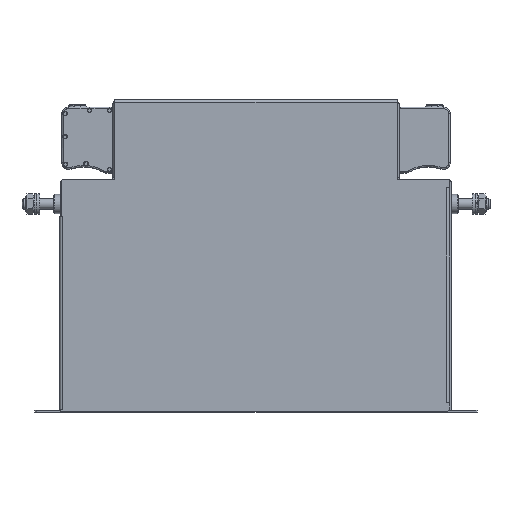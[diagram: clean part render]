
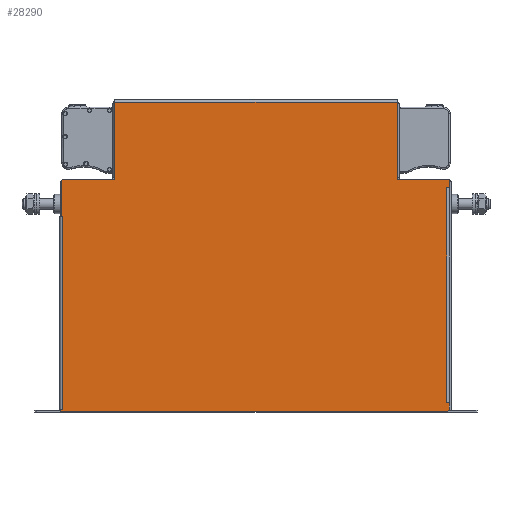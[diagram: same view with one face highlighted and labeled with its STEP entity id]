
A CAD part, top view. The second image highlights one B-rep face of the part: STEP entity #28290.
In plain terms, the highlighted planar face has unit normal (0, 0, 1).
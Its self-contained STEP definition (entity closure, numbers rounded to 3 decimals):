
#1690=LINE('',#41892,#3632);
#1920=LINE('',#42469,#3862);
#2256=LINE('',#43980,#4198);
#2260=LINE('',#43987,#4202);
#2262=LINE('',#43992,#4204);
#2273=LINE('',#44018,#4215);
#2275=LINE('',#44023,#4217);
#2277=LINE('',#44028,#4219);
#2283=LINE('',#44039,#4225);
#2284=LINE('',#44041,#4226);
#2286=LINE('',#44046,#4228);
#2290=LINE('',#44053,#4232);
#2293=LINE('',#44059,#4235);
#2304=LINE('',#44090,#4246);
#2308=LINE('',#44100,#4250);
#2309=LINE('',#44104,#4251);
#2315=LINE('',#44115,#4257);
#2316=LINE('',#44117,#4258);
#2318=LINE('',#44122,#4260);
#2323=LINE('',#44132,#4265);
#2334=LINE('',#44156,#4276);
#2337=LINE('',#44162,#4279);
#2340=LINE('',#44167,#4282);
#2341=LINE('',#44169,#4283);
#2354=LINE('',#44191,#4296);
#2361=LINE('',#44204,#4303);
#2363=LINE('',#44207,#4305);
#3632=VECTOR('',#33538,10.);
#3862=VECTOR('',#33992,10.);
#4198=VECTOR('',#34806,10.);
#4202=VECTOR('',#34812,10.);
#4204=VECTOR('',#34816,10.);
#4215=VECTOR('',#34845,10.);
#4217=VECTOR('',#34849,10.);
#4219=VECTOR('',#34853,10.);
#4225=VECTOR('',#34861,10.);
#4226=VECTOR('',#34864,10.);
#4228=VECTOR('',#34868,10.);
#4232=VECTOR('',#34874,10.);
#4235=VECTOR('',#34879,10.);
#4246=VECTOR('',#34918,10.);
#4250=VECTOR('',#34928,10.);
#4251=VECTOR('',#34931,10.);
#4257=VECTOR('',#34939,10.);
#4258=VECTOR('',#34942,10.);
#4260=VECTOR('',#34946,10.);
#4265=VECTOR('',#34953,10.);
#4276=VECTOR('',#34982,10.);
#4279=VECTOR('',#34987,10.);
#4282=VECTOR('',#34992,10.);
#4283=VECTOR('',#34995,10.);
#4296=VECTOR('',#35018,10.);
#4303=VECTOR('',#35033,10.);
#4305=VECTOR('',#35037,10.);
#5683=PLANE('',#30230);
#6823=FACE_OUTER_BOUND('',#8671,.T.);
#8671=EDGE_LOOP('',(#19914,#19915,#19916,#19917,#19918,#19919,#19920,#19921,
#19922,#19923,#19924,#19925,#19926,#19927,#19928,#19929,#19930,#19931,#19932,
#19933,#19934,#19935,#19936,#19937,#19938,#19939,#19940));
#11366=VERTEX_POINT('',#41889);
#11367=VERTEX_POINT('',#41891);
#11558=VERTEX_POINT('',#42466);
#11559=VERTEX_POINT('',#42468);
#11777=VERTEX_POINT('',#43976);
#11778=VERTEX_POINT('',#43978);
#11779=VERTEX_POINT('',#43982);
#11782=VERTEX_POINT('',#43990);
#11789=VERTEX_POINT('',#44020);
#11790=VERTEX_POINT('',#44022);
#11791=VERTEX_POINT('',#44026);
#11792=VERTEX_POINT('',#44027);
#11796=VERTEX_POINT('',#44036);
#11797=VERTEX_POINT('',#44044);
#11798=VERTEX_POINT('',#44045);
#11802=VERTEX_POINT('',#44057);
#11809=VERTEX_POINT('',#44094);
#11811=VERTEX_POINT('',#44098);
#11812=VERTEX_POINT('',#44102);
#11813=VERTEX_POINT('',#44103);
#11817=VERTEX_POINT('',#44112);
#11818=VERTEX_POINT('',#44120);
#11819=VERTEX_POINT('',#44121);
#11823=VERTEX_POINT('',#44130);
#11828=VERTEX_POINT('',#44158);
#11830=VERTEX_POINT('',#44164);
#11836=VERTEX_POINT('',#44202);
#13936=EDGE_CURVE('',#11367,#11366,#1690,.T.);
#14202=EDGE_CURVE('',#11559,#11558,#1920,.T.);
#14630=EDGE_CURVE('',#11778,#11777,#2256,.T.);
#14634=EDGE_CURVE('',#11779,#11559,#2260,.T.);
#14636=EDGE_CURVE('',#11366,#11782,#2262,.T.);
#14651=EDGE_CURVE('',#11782,#11779,#2273,.T.);
#14653=EDGE_CURVE('',#11789,#11790,#2275,.T.);
#14655=EDGE_CURVE('',#11791,#11792,#2277,.T.);
#14661=EDGE_CURVE('',#11796,#11791,#2283,.T.);
#14662=EDGE_CURVE('',#11792,#11790,#2284,.T.);
#14664=EDGE_CURVE('',#11797,#11798,#2286,.T.);
#14668=EDGE_CURVE('',#11778,#11797,#2290,.T.);
#14671=EDGE_CURVE('',#11798,#11802,#2293,.T.);
#14688=EDGE_CURVE('',#11802,#11796,#2304,.T.);
#14692=EDGE_CURVE('',#11811,#11809,#2308,.T.);
#14693=EDGE_CURVE('',#11812,#11813,#2309,.T.);
#14699=EDGE_CURVE('',#11817,#11812,#2315,.T.);
#14700=EDGE_CURVE('',#11813,#11809,#2316,.T.);
#14702=EDGE_CURVE('',#11818,#11819,#2318,.T.);
#14707=EDGE_CURVE('',#11819,#11823,#2323,.T.);
#14722=EDGE_CURVE('',#11823,#11817,#2334,.T.);
#14725=EDGE_CURVE('',#11828,#11818,#2337,.T.);
#14728=EDGE_CURVE('',#11830,#11828,#2340,.T.);
#14729=EDGE_CURVE('',#11830,#11558,#2341,.T.);
#14742=EDGE_CURVE('',#11367,#11789,#2354,.T.);
#14749=EDGE_CURVE('',#11836,#11811,#2361,.T.);
#14751=EDGE_CURVE('',#11777,#11836,#2363,.T.);
#19914=ORIENTED_EDGE('',*,*,#14751,.F.);
#19915=ORIENTED_EDGE('',*,*,#14630,.F.);
#19916=ORIENTED_EDGE('',*,*,#14668,.T.);
#19917=ORIENTED_EDGE('',*,*,#14664,.T.);
#19918=ORIENTED_EDGE('',*,*,#14671,.T.);
#19919=ORIENTED_EDGE('',*,*,#14688,.T.);
#19920=ORIENTED_EDGE('',*,*,#14661,.T.);
#19921=ORIENTED_EDGE('',*,*,#14655,.T.);
#19922=ORIENTED_EDGE('',*,*,#14662,.T.);
#19923=ORIENTED_EDGE('',*,*,#14653,.F.);
#19924=ORIENTED_EDGE('',*,*,#14742,.F.);
#19925=ORIENTED_EDGE('',*,*,#13936,.T.);
#19926=ORIENTED_EDGE('',*,*,#14636,.T.);
#19927=ORIENTED_EDGE('',*,*,#14651,.T.);
#19928=ORIENTED_EDGE('',*,*,#14634,.T.);
#19929=ORIENTED_EDGE('',*,*,#14202,.T.);
#19930=ORIENTED_EDGE('',*,*,#14729,.F.);
#19931=ORIENTED_EDGE('',*,*,#14728,.T.);
#19932=ORIENTED_EDGE('',*,*,#14725,.T.);
#19933=ORIENTED_EDGE('',*,*,#14702,.T.);
#19934=ORIENTED_EDGE('',*,*,#14707,.T.);
#19935=ORIENTED_EDGE('',*,*,#14722,.T.);
#19936=ORIENTED_EDGE('',*,*,#14699,.T.);
#19937=ORIENTED_EDGE('',*,*,#14693,.T.);
#19938=ORIENTED_EDGE('',*,*,#14700,.T.);
#19939=ORIENTED_EDGE('',*,*,#14692,.F.);
#19940=ORIENTED_EDGE('',*,*,#14749,.F.);
#28290=ADVANCED_FACE('',(#6823),#5683,.T.);
#30230=AXIS2_PLACEMENT_3D('',#44209,#35039,#35040);
#33538=DIRECTION('',(-1.,0.,0.));
#33992=DIRECTION('',(-1.,0.,0.));
#34806=DIRECTION('',(0.,-1.,0.));
#34812=DIRECTION('',(0.,-1.,0.));
#34816=DIRECTION('',(0.,1.,0.));
#34845=DIRECTION('',(-1.,0.,0.));
#34849=DIRECTION('',(0.,-1.,0.));
#34853=DIRECTION('',(0.,1.,0.));
#34861=DIRECTION('',(-1.,0.,0.));
#34864=DIRECTION('',(1.,0.,0.));
#34868=DIRECTION('',(0.,1.,0.));
#34874=DIRECTION('',(-1.,0.,0.));
#34879=DIRECTION('',(1.,0.,0.));
#34918=DIRECTION('',(0.,1.,0.));
#34928=DIRECTION('',(0.,1.,0.));
#34931=DIRECTION('',(0.,-1.,0.));
#34939=DIRECTION('',(1.,0.,0.));
#34942=DIRECTION('',(-1.,0.,0.));
#34946=DIRECTION('',(0.,-1.,0.));
#34953=DIRECTION('',(-1.,0.,0.));
#34982=DIRECTION('',(0.,-1.,0.));
#34987=DIRECTION('',(1.,0.,0.));
#34992=DIRECTION('',(0.,-1.,0.));
#34995=DIRECTION('',(0.707,0.707,0.));
#35018=DIRECTION('',(0.707,-0.707,0.));
#35033=DIRECTION('',(-1.,0.,0.));
#35037=DIRECTION('',(-0.707,-0.707,0.));
#35039=DIRECTION('center_axis',(0.,0.,
1.));
#35040=DIRECTION('ref_axis',(1.,0.,0.));
#41889=CARTESIAN_POINT('',(81.5,134.3,32.35));
#41891=CARTESIAN_POINT('',(110.5,134.3,32.35));
#41892=CARTESIAN_POINT('',(55.5,134.3,32.35));
#42466=CARTESIAN_POINT('',(-111.,134.3,32.35));
#42468=CARTESIAN_POINT('',(-81.5,134.3,32.35));
#42469=CARTESIAN_POINT('',(-41.,134.3,32.35));
#43976=CARTESIAN_POINT('',(111.5,1.5,32.35));
#43978=CARTESIAN_POINT('',(111.5,5.49,32.35));
#43980=CARTESIAN_POINT('',(111.5,0.5,32.35));
#43982=CARTESIAN_POINT('',(-81.5,178.5,32.35));
#43987=CARTESIAN_POINT('',(-81.5,135.125,32.35));
#43990=CARTESIAN_POINT('',(81.5,178.5,32.35));
#43992=CARTESIAN_POINT('',(81.5,112.275,32.35));
#44018=CARTESIAN_POINT('',(40.5,178.5,32.35));
#44020=CARTESIAN_POINT('',(111.5,133.3,32.35));
#44022=CARTESIAN_POINT('',(111.5,129.31,32.35));
#44023=CARTESIAN_POINT('',(111.5,0.5,32.35));
#44026=CARTESIAN_POINT('',(109.99,129.3,32.35));
#44027=CARTESIAN_POINT('',(109.99,129.31,32.35));
#44028=CARTESIAN_POINT('',(109.99,109.775,32.35));
#44036=CARTESIAN_POINT('',(110.,129.3,32.35));
#44039=CARTESIAN_POINT('',(55.5,129.3,32.35));
#44041=CARTESIAN_POINT('',(54.745,129.31,32.35));
#44044=CARTESIAN_POINT('',(109.99,5.49,32.35));
#44045=CARTESIAN_POINT('',(109.99,5.5,32.35));
#44046=CARTESIAN_POINT('',(109.99,47.87,32.35));
#44053=CARTESIAN_POINT('',(55.5,5.49,32.35));
#44057=CARTESIAN_POINT('',(110.,5.5,32.35));
#44059=CARTESIAN_POINT('',(54.745,5.5,32.35));
#44090=CARTESIAN_POINT('',(110.,47.875,32.35));
#44094=CARTESIAN_POINT('',(-112.5,1.19,32.35));
#44098=CARTESIAN_POINT('',(-112.5,0.5,32.35));
#44100=CARTESIAN_POINT('',(-112.5,180.,32.35));
#44102=CARTESIAN_POINT('',(-111.69,1.2,32.35));
#44103=CARTESIAN_POINT('',(-111.69,1.19,32.35));
#44104=CARTESIAN_POINT('',(-111.69,45.725,32.35));
#44112=CARTESIAN_POINT('',(-111.7,1.2,32.35));
#44115=CARTESIAN_POINT('',(-56.5,1.2,32.35));
#44117=CARTESIAN_POINT('',(-56.095,1.19,32.35));
#44120=CARTESIAN_POINT('',(-111.69,112.81,32.35));
#44121=CARTESIAN_POINT('',(-111.69,112.8,32.35));
#44122=CARTESIAN_POINT('',(-111.69,101.53,32.35));
#44130=CARTESIAN_POINT('',(-111.7,112.8,32.35));
#44132=CARTESIAN_POINT('',(-56.095,112.8,32.35));
#44156=CARTESIAN_POINT('',(-111.7,101.525,32.35));
#44158=CARTESIAN_POINT('',(-112.,112.81,32.35));
#44162=CARTESIAN_POINT('',(-56.5,112.81,32.35));
#44164=CARTESIAN_POINT('',(-112.,133.3,32.35));
#44167=CARTESIAN_POINT('',(-112.,106.903,32.35));
#44169=CARTESIAN_POINT('',(-94.637,150.663,32.35));
#44191=CARTESIAN_POINT('',(94.012,150.788,32.35));
#44202=CARTESIAN_POINT('',(110.5,0.5,32.35));
#44204=CARTESIAN_POINT('',(-112.5,0.5,32.35));
#44207=CARTESIAN_POINT('',(105.438,-4.562,32.35));
#44209=CARTESIAN_POINT('Origin',(-0.5,90.25,32.35));
